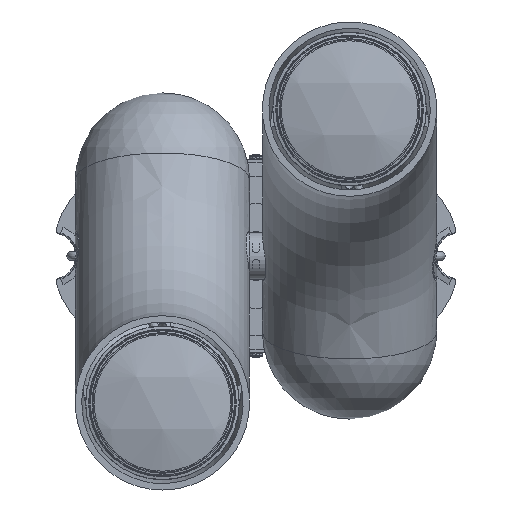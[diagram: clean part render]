
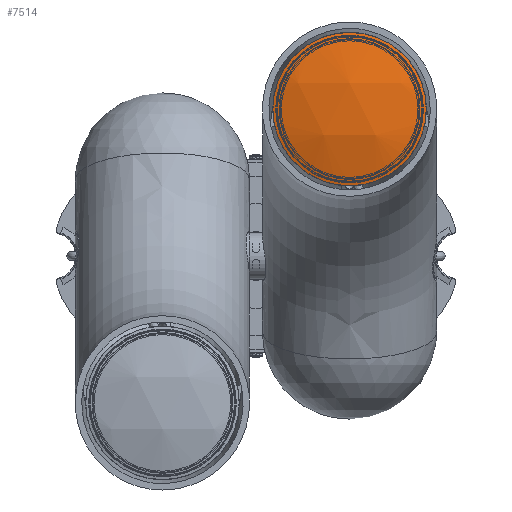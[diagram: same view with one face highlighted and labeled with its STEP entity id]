
A CAD part, front view. The second image highlights one B-rep face of the part: STEP entity #7514.
In plain terms, the highlighted spherical face has radius 148.45 mm.
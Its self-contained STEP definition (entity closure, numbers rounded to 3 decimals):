
#18=SPHERICAL_SURFACE('',#8335,148.45);
#868=FACE_OUTER_BOUND('',#1363,.T.);
#1363=EDGE_LOOP('',(#5955));
#2791=CIRCLE('',#8333,47.538);
#3328=VERTEX_POINT('',#19675);
#4266=EDGE_CURVE('',#3328,#3328,#2791,.T.);
#5955=ORIENTED_EDGE('',*,*,#4266,.F.);
#7514=ADVANCED_FACE('',(#868),#18,.T.);
#8333=AXIS2_PLACEMENT_3D('',#19676,#9737,#9738);
#8335=AXIS2_PLACEMENT_3D('',#19678,#9741,#9742);
#9737=DIRECTION('center_axis',(0.,-1.,0.));
#9738=DIRECTION('ref_axis',(1.,0.,0.));
#9741=DIRECTION('center_axis',(0.,0.,1.));
#9742=DIRECTION('ref_axis',(1.,0.,0.));
#19675=CARTESIAN_POINT('',(0.,85.147,-47.538));
#19676=CARTESIAN_POINT('Origin',(0.,85.147,
0.));
#19678=CARTESIAN_POINT('Origin',(0.,-55.486,
0.));
